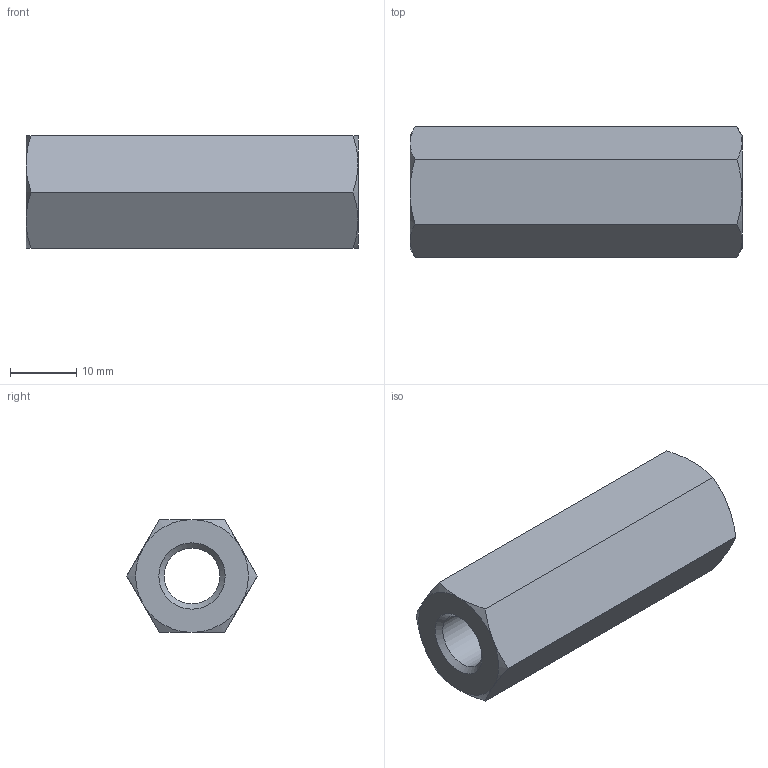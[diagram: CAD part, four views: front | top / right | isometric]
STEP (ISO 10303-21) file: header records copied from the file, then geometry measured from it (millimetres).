
FILE_DESCRIPTION( ( 'STEP AP203' ), '1' );
FILE_NAME( 'C:/Temp/Ganter_Step_05_03_2020/data/3_2/gn6220/gn6220_ni/Stainless Steel-Spacer GN 6220-NI-M10-50-A.stp', '2020-03-13T05:43:08', ( 'License CC BY-ND 4.0' ), ( 'CADENAS' ), ' ', 'PARTsolutions', ' ' );
FILE_SCHEMA( ( 'CONFIG_CONTROL_DESIGN' ) );
Length unit declared in the file: millimetre
Products named in the file (1): _Stainless Steel-Spacer GN 6220-NI-M10-50-A
Bounding box: 50 x 19.63 x 17 mm (x, y, z)
Volume: 9729.9 mm3; surface area: 4603.8 mm2
Topology: 1 solids, 1 shells, 23 faces, 49 edges, 28 vertices
Faces by surface type: cone 14, plane 8, cylinder 1
Full cylindrical faces by diameter (mm): 8.376 x1
Entity records: 728 total; most frequent: CARTESIAN_POINT 234, ORIENTED_EDGE 92, DIRECTION 86, EDGE_CURVE 46, AXIS2_PLACEMENT_3D 40, EDGE_LOOP 28, VERTEX_POINT 28, FACE_OUTER_BOUND 24
